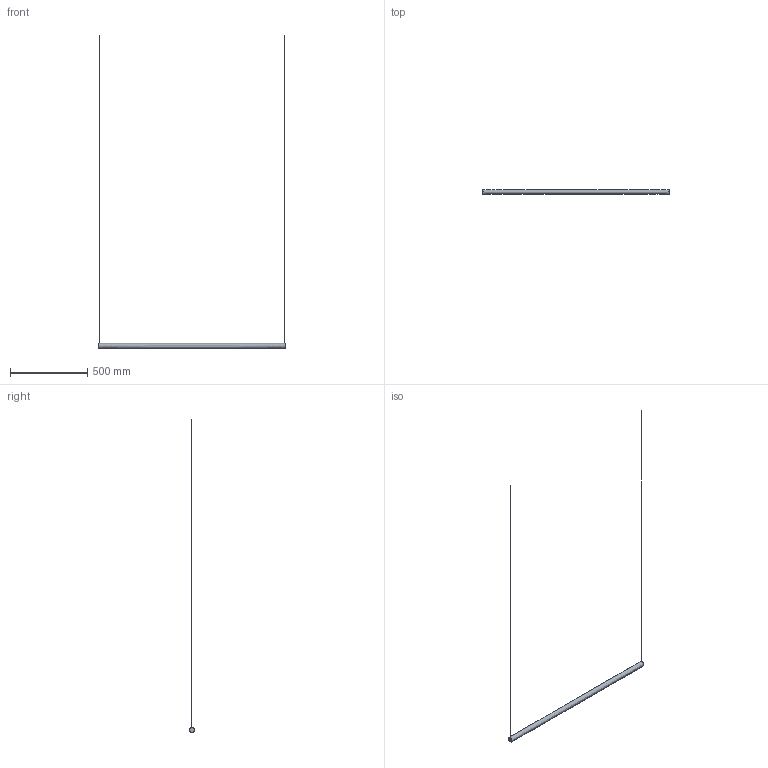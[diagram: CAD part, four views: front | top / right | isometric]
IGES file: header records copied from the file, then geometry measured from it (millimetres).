
Global section: file name: /Users/064_p/Desktop/3d data for homepage/LIMBO120 P.igs; native system: Rhinoceros ( Jul  7 2025 ); preprocessor: Trout Lake IGES 012 Jul  7 2025; date: 260805.083818; units: millimetre
Bounding box: 1212 x 32 x 2033.42 mm (x, y, z)
Surface area: 153446.8 mm2 (no closed solid volume)
Topology: 0 solids, 0 shells, 21 faces, 198 edges, 192 vertices
Faces by surface type: bspline 21
